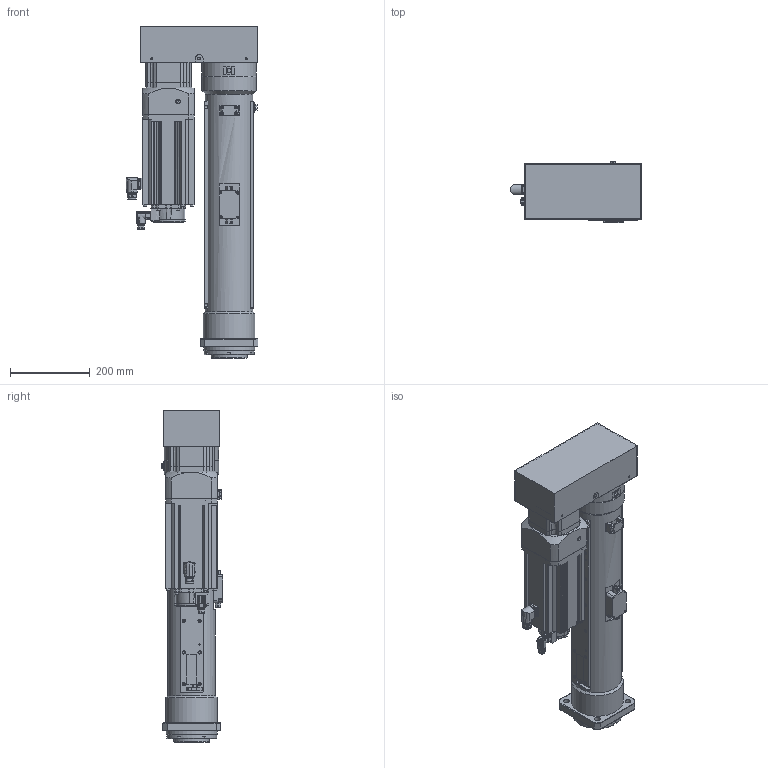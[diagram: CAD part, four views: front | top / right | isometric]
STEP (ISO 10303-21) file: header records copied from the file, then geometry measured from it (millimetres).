
FILE_DESCRIPTION( ('This file contains a STEP AP42 implementation' ,'as created by ZW3D STEP Interface translator.') ,'2;1' );
FILE_NAME( 'OACIS-P050-450-200-A6V400_ASM_V20.01.stp' ,'25 3 8.10 147', (''), ('ZWCAD Software Co.'), 'Version 1.0', 'ZW3D to STEP translator', '' );
FILE_SCHEMA(('AUTOMOTIVE_DESIGN { 1 0 10303 214 1 1 1 1 }'));
Length unit declared in the file: millimetre
Products named in the file (2): 0; OACIS-P050-450-200-A6V400_ASM_V20.01
Bounding box: 331.5 x 155 x 834.5 mm (x, y, z)
Volume: 12459083.9 mm3; surface area: 1849363.8 mm2
Topology: 21 solids, 29 shells, 2286 faces, 5863 edges, 3803 vertices
Faces by surface type: plane 1003, cylinder 856, cone 225, bspline 152, torus 38, sphere 12
Full cylindrical faces by diameter (mm): 1.25 x12, 1.567 x4, 2 x1, 2.232 x6, 2.459 x1, 2.8 x1, 3.242 x3, 3.3 x90, 4.2 x4, 4.3 x31, 4.5 x14, 4.917 x12, 5 x1, 5.3 x4, 5.5 x5, 6 x4, 6.8 x40, 7 x4, 8 x35, 8.4 x8, 8.5 x4, 9 x14, 9.5 x4, 10 x7, 10.104 x4, 10.2 x16, 10.5 x4, 12 x1, 13.4 x1, 14 x4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
Entity records: 76679 total; most frequent: CARTESIAN_POINT 18721, DIRECTION 11515, ORIENTED_EDGE 11469, EDGE_CURVE 5784, AXIS2_PLACEMENT_3D 4257, VERTEX_POINT 3812, VECTOR 3001, LINE 3001
